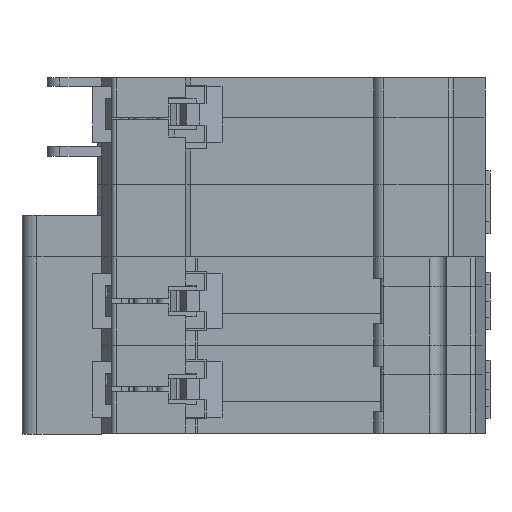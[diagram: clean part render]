
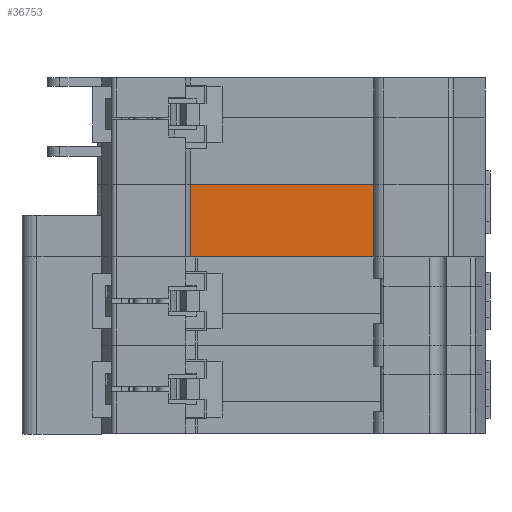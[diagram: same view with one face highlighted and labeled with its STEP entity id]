
A CAD part, front view. The second image highlights one B-rep face of the part: STEP entity #36753.
In plain terms, the highlighted planar face has unit normal (0, -1, 0).
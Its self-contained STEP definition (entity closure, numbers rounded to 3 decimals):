
#148 = CARTESIAN_POINT ( 'NONE',  ( 25.2, -55.95, 0. ) ) ;
#719 = CARTESIAN_POINT ( 'NONE',  ( -12., -55.95, 0. ) ) ;
#1316 = CARTESIAN_POINT ( 'NONE',  ( 25.2, -55.95, -14.5 ) ) ;
#1491 = CARTESIAN_POINT ( 'NONE',  ( -12., -55.95, -14.5 ) ) ;
#1528 = FACE_OUTER_BOUND ( 'NONE', #14463, .T. ) ;
#1822 = CARTESIAN_POINT ( 'NONE',  ( -12., -55.95, 0. ) ) ;
#2320 = VERTEX_POINT ( 'NONE', #12026 ) ;
#2375 = EDGE_CURVE ( 'NONE', #2320, #37503, #36856, .T. ) ;
#2660 = ORIENTED_EDGE ( 'NONE', *, *, #26293, .F. ) ;
#4285 = ORIENTED_EDGE ( 'NONE', *, *, #29314, .F. ) ;
#5768 = VECTOR ( 'NONE', #34455, 1000. ) ;
#8226 = CARTESIAN_POINT ( 'NONE',  ( -12., -55.95, -14.5 ) ) ;
#8725 = DIRECTION ( 'NONE',  ( 0., -1., 0. ) ) ;
#9223 = PLANE ( 'NONE',  #38236 ) ;
#10209 = DIRECTION ( 'NONE',  ( 1., 0., 0. ) ) ;
#12026 = CARTESIAN_POINT ( 'NONE',  ( 25.2, -55.95, -14.5 ) ) ;
#12660 = LINE ( 'NONE', #1491, #5768 ) ;
#13543 = EDGE_CURVE ( 'NONE', #27140, #2320, #20214, .T. ) ;
#14463 = EDGE_LOOP ( 'NONE', ( #2660, #4285, #32195, #32931 ) ) ;
#16658 = VERTEX_POINT ( 'NONE', #719 ) ;
#20214 = LINE ( 'NONE', #36511, #26710 ) ;
#21509 = DIRECTION ( 'NONE',  ( 1., 0., 0. ) ) ;
#21731 = DIRECTION ( 'NONE',  ( 0., 0., 1. ) ) ;
#26234 = LINE ( 'NONE', #1822, #38286 ) ;
#26293 = EDGE_CURVE ( 'NONE', #16658, #37503, #26234, .T. ) ;
#26710 = VECTOR ( 'NONE', #21509, 1000. ) ;
#27140 = VERTEX_POINT ( 'NONE', #8226 ) ;
#29314 = EDGE_CURVE ( 'NONE', #27140, #16658, #12660, .T. ) ;
#29943 = DIRECTION ( 'NONE',  ( 0., 0., -1. ) ) ;
#32195 = ORIENTED_EDGE ( 'NONE', *, *, #13543, .T. ) ;
#32675 = CARTESIAN_POINT ( 'NONE',  ( -12., -55.95, -14.5 ) ) ;
#32931 = ORIENTED_EDGE ( 'NONE', *, *, #2375, .T. ) ;
#33155 = VECTOR ( 'NONE', #21731, 1000. ) ;
#34455 = DIRECTION ( 'NONE',  ( 0., 0., 1. ) ) ;
#36511 = CARTESIAN_POINT ( 'NONE',  ( -12., -55.95, -14.5 ) ) ;
#36753 = ADVANCED_FACE ( 'NONE', ( #1528 ), #9223, .T. ) ;
#36856 = LINE ( 'NONE', #1316, #33155 ) ;
#37503 = VERTEX_POINT ( 'NONE', #148 ) ;
#38236 = AXIS2_PLACEMENT_3D ( 'NONE', #32675, #8725, #29943 ) ;
#38286 = VECTOR ( 'NONE', #10209, 1000. ) ;
